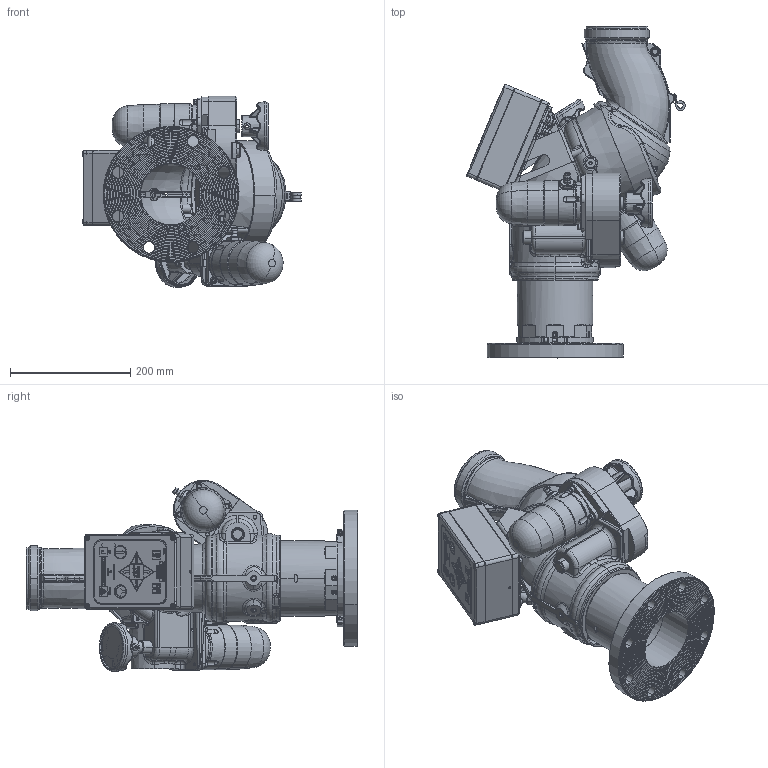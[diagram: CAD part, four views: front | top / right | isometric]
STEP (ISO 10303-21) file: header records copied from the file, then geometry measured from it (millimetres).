
FILE_DESCRIPTION (( 'STEP AP203' ), '1' );
FILE_NAME ('Y4-E21A-L_Vertical.STEP', '2016-06-17T12:12:45', ( '' ), ( '' ), 'SwSTEP 2.0', 'SolidWorks 2015', '' );
FILE_SCHEMA (( 'CONFIG_CONTROL_DESIGN' ));
Products named in the file (1): Y4-E21A-L_Vertical
Bounding box: 363.2 x 551.08 x 317.62 mm (x, y, z)
Surface area: 947134.9 mm2 (no closed solid volume)
Topology: 0 solids, 234 shells, 2715 faces, 11773 edges, 9062 vertices
Faces by surface type: plane 833, cylinder 605, bspline 529, torus 427, cone 301, sphere 20
Entity records: 190364 total; most frequent: CARTESIAN_POINT 104119, ORIENTED_EDGE 17046, DIRECTION 15331, EDGE_CURVE 11758, VERTEX_POINT 9061, AXIS2_PLACEMENT_3D 5227, VECTOR 4877, LINE 4877
